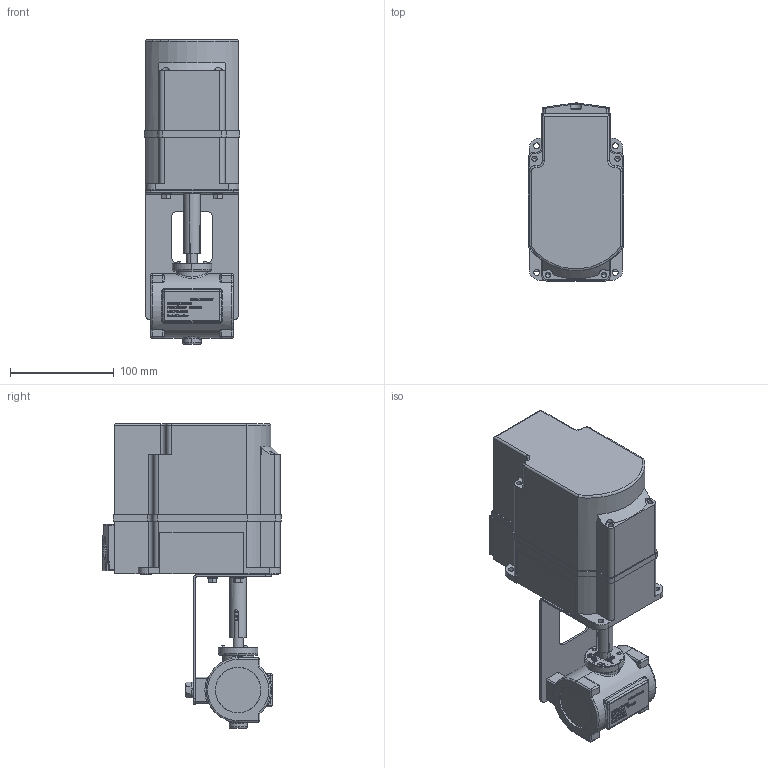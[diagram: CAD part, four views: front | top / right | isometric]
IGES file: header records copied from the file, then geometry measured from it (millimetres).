
Global section: file name: No Iges File Name specified; native system: AutoDesk Inventor R12.0; preprocessor: AutoDesk Inventor Iges Exporter R12.0; date: 20110328.090350; units: millimetre
Bounding box: 92 x 171.99 x 294 mm (x, y, z)
Volume: 2145775.5 mm3; surface area: 175670.6 mm2
Topology: 1 solids, 15 shells, 2828 faces, 7573 edges, 4937 vertices
Faces by surface type: plane 1480, bspline 983, cylinder 188, revolution 89, cone 47, torus 27, sphere 14
Full cylindrical faces by diameter (mm): 9.2 x3, 14.8 x2
